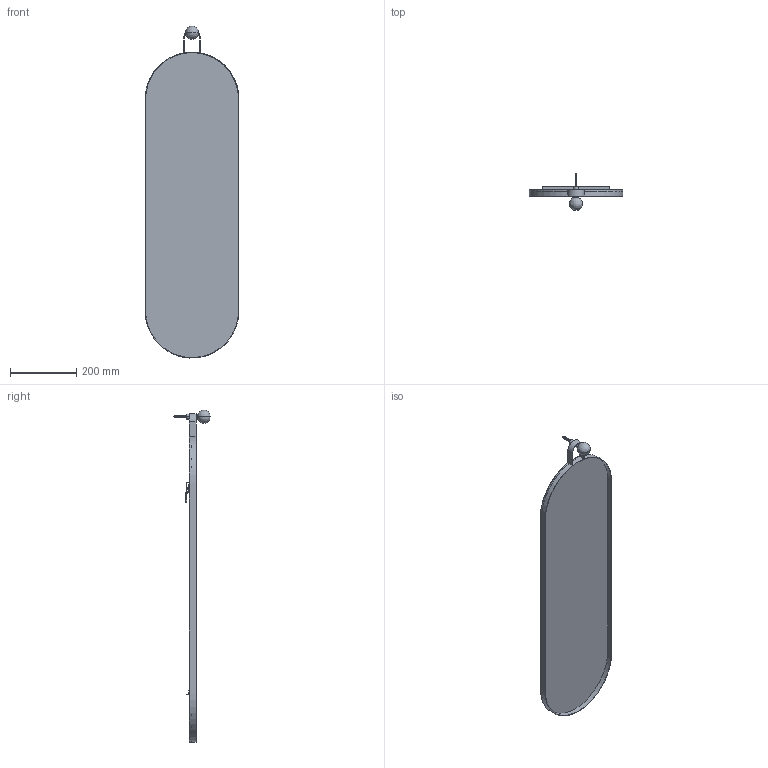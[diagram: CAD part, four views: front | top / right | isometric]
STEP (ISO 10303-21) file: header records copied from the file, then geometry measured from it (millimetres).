
FILE_DESCRIPTION(/* description */ (''),/* implementation_level */ '2;1');
FILE_NAME(/* name */ 'PY8EQ8~O',/* time_stamp */ '2018-07-23T11:49:54+02:00',/* author */ (''),/* organization */ (''),/* preprocessor_version */ 'ST-DEVELOPER v15',/* originating_system */ '',/* authorisation */ '');
FILE_SCHEMA (('AUTOMOTIVE_DESIGN'));
Length unit declared in the file: millimetre
Products named in the file (1): Document
Bounding box: 283 x 111.2 x 1001.55 mm (x, y, z)
Volume: 1549878.5 mm3; surface area: 1119972.7 mm2
Topology: 8 solids, 8 shells, 120 faces, 309 edges, 199 vertices
Faces by surface type: bspline 120
Entity records: 22894 total; most frequent: CARTESIAN_POINT 19077, B_SPLINE_CURVE_WITH_KNOTS 725, ORIENTED_EDGE 606, PCURVE 606, DEFINITIONAL_REPRESENTATION 606, SURFACE_CURVE 303, EDGE_CURVE 303, VERTEX_POINT 199
